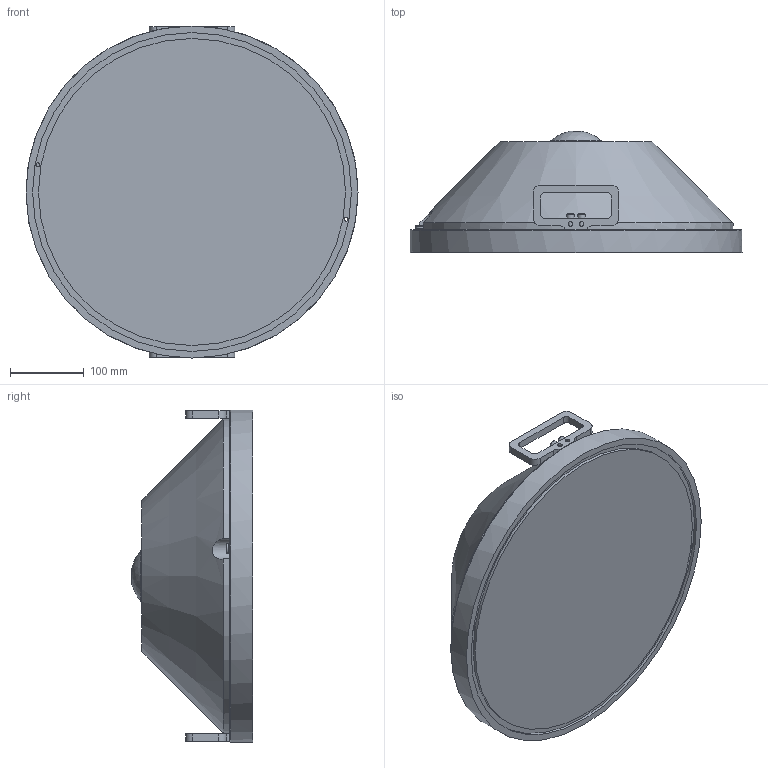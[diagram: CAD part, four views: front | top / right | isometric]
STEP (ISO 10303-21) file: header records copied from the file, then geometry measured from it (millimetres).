
FILE_DESCRIPTION (( 'STEP AP203' ), '1' );
FILE_NAME ('0019776 EZ-0300-450.STEP', '2025-04-22T10:43:48', ( '' ), ( '' ), 'SwSTEP 2.0', 'SolidWorks 2021', '' );
FILE_SCHEMA (( 'CONFIG_CONTROL_DESIGN' ));
Length unit declared in the file: millimetre
Products named in the file (1): 0019776 EZ-0300-450
Bounding box: 450 x 164.43 x 450 mm (x, y, z)
Volume: 15221435.3 mm3; surface area: 470833.9 mm2
Topology: 9 solids, 9 shells, 208 faces, 492 edges, 306 vertices
Faces by surface type: plane 111, cylinder 67, cone 19, torus 10, sphere 1
Full cylindrical faces by diameter (mm): 6 x4, 6.3 x16, 6.8 x1, 8 x1, 8.8 x3, 9 x1, 9.6 x1, 9.728 x1, 10 x4, 12 x2, 13.5 x1, 14 x1, 15 x1, 68 x1, 416 x1, 432 x1, 450 x1
Entity records: 5674 total; most frequent: CARTESIAN_POINT 1137, DIRECTION 956, ORIENTED_EDGE 796, EDGE_CURVE 398, AXIS2_PLACEMENT_3D 375, EDGE_LOOP 315, VERTEX_POINT 281, FACE_OUTER_BOUND 260
